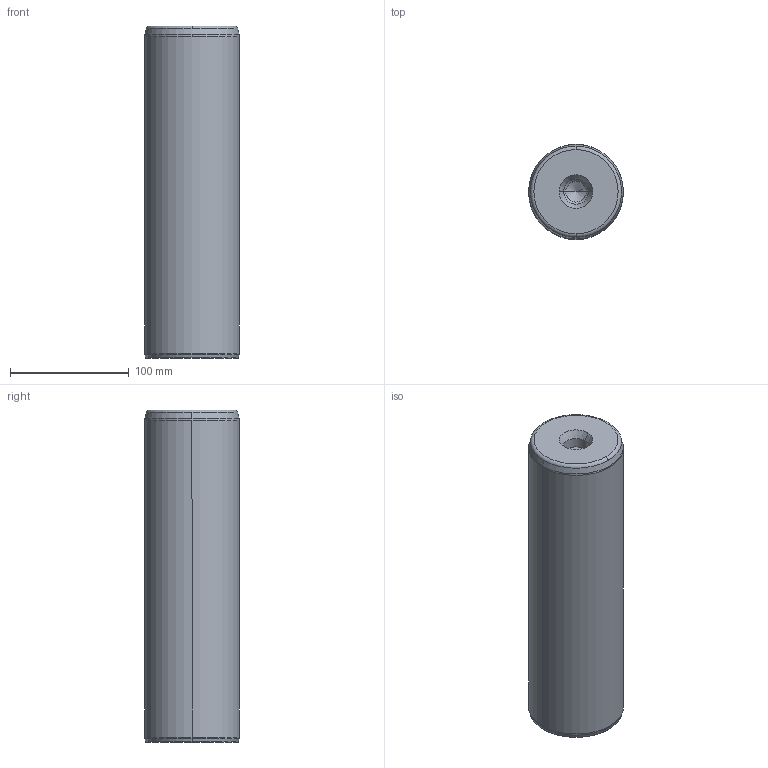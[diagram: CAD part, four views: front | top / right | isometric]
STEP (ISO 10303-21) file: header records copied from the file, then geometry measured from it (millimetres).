
FILE_DESCRIPTION((''),'2;1');
FILE_NAME('P10_080_280.stp','2008-12-23T15:07:47',(''),(''),'Mechanical Desktop 2009','Mechanical Desktop 2009',', , ');
FILE_SCHEMA(('CONFIG_CONTROL_DESIGN'));
Length unit declared in the file: millimetre
Products named in the file (5): Product; ProductAA; blmdl1; ProductA; blmdl1A
Assembly tree (2 placements, depth 3):
  Product
    ProductAA
      blmdl1
  ProductA
  blmdl1A
Bounding box: 80 x 80 x 280 mm (x, y, z)
Volume: 1388952.3 mm3; surface area: 82446.7 mm2
Topology: 1 solids, 1 shells, 26 faces, 66 edges, 41 vertices
Faces by surface type: cone 10, torus 8, cylinder 6, plane 2
Entity records: 1012 total; most frequent: DIRECTION 170, CARTESIAN_POINT 134, ORIENTED_EDGE 128, AXIS2_PLACEMENT_3D 77, EDGE_CURVE 64, CIRCLE 48, VERTEX_POINT 41, EDGE_LOOP 27
